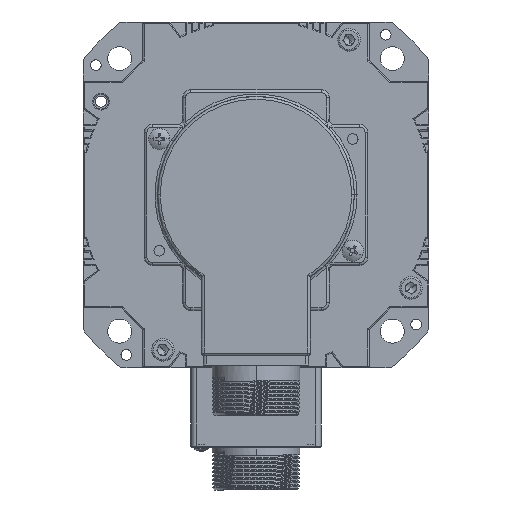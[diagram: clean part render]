
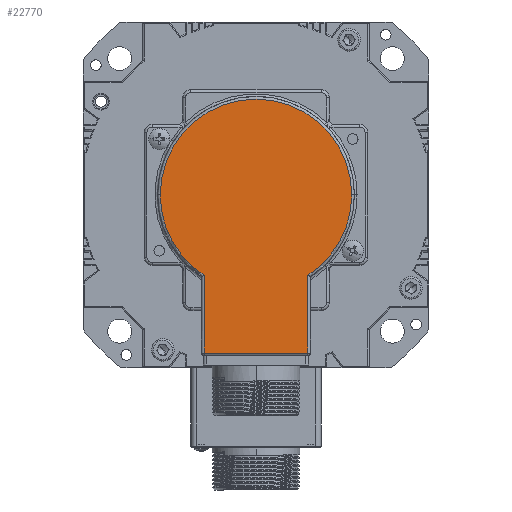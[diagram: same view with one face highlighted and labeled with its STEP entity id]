
A CAD part, front view. The second image highlights one B-rep face of the part: STEP entity #22770.
In plain terms, the highlighted planar face has unit normal (0, -1, 0) as drawn and (0, 0, -1) by its records, which use the part's own axes.
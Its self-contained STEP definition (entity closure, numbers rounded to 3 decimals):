
#838 = CIRCLE ( 'NONE', #70950, 36. ) ;
#966 = LINE ( 'NONE', #68155, #69603 ) ;
#2342 = CARTESIAN_POINT ( 'NONE',  ( 0., 0., -33. ) ) ;
#2620 = VERTEX_POINT ( 'NONE', #29495 ) ;
#3125 = AXIS2_PLACEMENT_3D ( 'NONE', #2342, #26650, #13771 ) ;
#4966 = CARTESIAN_POINT ( 'NONE',  ( -36., 0., -33. ) ) ;
#7019 = CARTESIAN_POINT ( 'NONE',  ( 0., 0., -33. ) ) ;
#8389 = ORIENTED_EDGE ( 'NONE', *, *, #47502, .T. ) ;
#10186 = EDGE_CURVE ( 'NONE', #35773, #32307, #838, .T. ) ;
#10469 = CARTESIAN_POINT ( 'NONE',  ( 36., 0., -33. ) ) ;
#10668 = VERTEX_POINT ( 'NONE', #10469 ) ;
#13771 = DIRECTION ( 'NONE',  ( -1., 0., 0. ) ) ;
#14227 = AXIS2_PLACEMENT_3D ( 'NONE', #34251, #70333, #69577 ) ;
#16459 = DIRECTION ( 'NONE',  ( 0., -1., 0. ) ) ;
#18451 = DIRECTION ( 'NONE',  ( 0., 1., 0. ) ) ;
#22732 = VECTOR ( 'NONE', #16459, 1000. ) ;
#22770 = ADVANCED_FACE ( 'NONE', ( #34003 ), #40478, .T. ) ;
#24896 = DIRECTION ( 'NONE',  ( -1., 0., 0. ) ) ;
#25863 = CARTESIAN_POINT ( 'NONE',  ( 0., 0., -33. ) ) ;
#26650 = DIRECTION ( 'NONE',  ( 0., 0., -1. ) ) ;
#29495 = CARTESIAN_POINT ( 'NONE',  ( -19.5, 59.5, -33. ) ) ;
#29980 = EDGE_CURVE ( 'NONE', #10668, #35773, #45947, .T. ) ;
#30667 = EDGE_CURVE ( 'NONE', #66276, #57850, #43145, .T. ) ;
#32307 = VERTEX_POINT ( 'NONE', #56233 ) ;
#32457 = AXIS2_PLACEMENT_3D ( 'NONE', #7019, #72867, #24896 ) ;
#34003 = FACE_OUTER_BOUND ( 'NONE', #58799, .T. ) ;
#34251 = CARTESIAN_POINT ( 'NONE',  ( 0., 0., -33. ) ) ;
#34965 = VECTOR ( 'NONE', #18451, 1000. ) ;
#35428 = CIRCLE ( 'NONE', #3125, 36. ) ;
#35773 = VERTEX_POINT ( 'NONE', #4966 ) ;
#40478 = PLANE ( 'NONE',  #14227 ) ;
#40564 = LINE ( 'NONE', #47247, #34965 ) ;
#42853 = ORIENTED_EDGE ( 'NONE', *, *, #52036, .T. ) ;
#43145 = LINE ( 'NONE', #74830, #22732 ) ;
#44418 = ORIENTED_EDGE ( 'NONE', *, *, #67768, .T. ) ;
#45947 = CIRCLE ( 'NONE', #32457, 36. ) ;
#47247 = CARTESIAN_POINT ( 'NONE',  ( -19.5, 60.5, -33. ) ) ;
#47502 = EDGE_CURVE ( 'NONE', #32307, #2620, #40564, .T. ) ;
#49287 = ORIENTED_EDGE ( 'NONE', *, *, #29980, .T. ) ;
#51164 = ORIENTED_EDGE ( 'NONE', *, *, #10186, .T. ) ;
#52036 = EDGE_CURVE ( 'NONE', #57850, #10668, #35428, .T. ) ;
#56233 = CARTESIAN_POINT ( 'NONE',  ( -19.5, 30.261, -33. ) ) ;
#57850 = VERTEX_POINT ( 'NONE', #72599 ) ;
#58799 = EDGE_LOOP ( 'NONE', ( #8389, #44418, #61371, #42853, #49287, #51164 ) ) ;
#61371 = ORIENTED_EDGE ( 'NONE', *, *, #30667, .T. ) ;
#66276 = VERTEX_POINT ( 'NONE', #69839 ) ;
#66857 = DIRECTION ( 'NONE',  ( 0., 0., -1. ) ) ;
#67768 = EDGE_CURVE ( 'NONE', #2620, #66276, #966, .T. ) ;
#68155 = CARTESIAN_POINT ( 'NONE',  ( 20.5, 59.5, -33. ) ) ;
#69178 = DIRECTION ( 'NONE',  ( 1., 0., 0. ) ) ;
#69577 = DIRECTION ( 'NONE',  ( -1., 0., 0. ) ) ;
#69603 = VECTOR ( 'NONE', #69178, 1000. ) ;
#69839 = CARTESIAN_POINT ( 'NONE',  ( 19.5, 59.5, -33. ) ) ;
#70333 = DIRECTION ( 'NONE',  ( 0., 0., -1. ) ) ;
#70950 = AXIS2_PLACEMENT_3D ( 'NONE', #25863, #66857, #72821 ) ;
#72599 = CARTESIAN_POINT ( 'NONE',  ( 19.5, 30.261, -33. ) ) ;
#72821 = DIRECTION ( 'NONE',  ( -1., 0., 0. ) ) ;
#72867 = DIRECTION ( 'NONE',  ( 0., 0., -1. ) ) ;
#74830 = CARTESIAN_POINT ( 'NONE',  ( 19.5, 30.802, -33. ) ) ;
